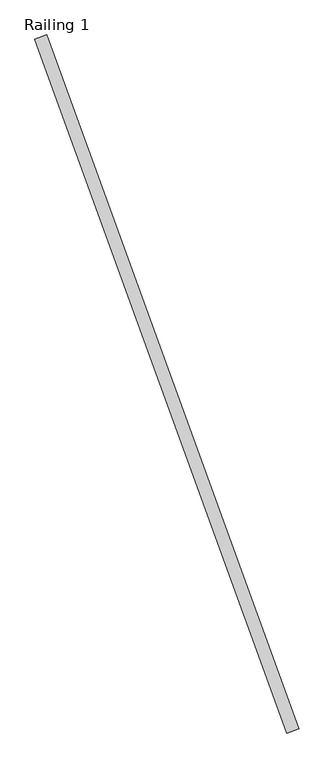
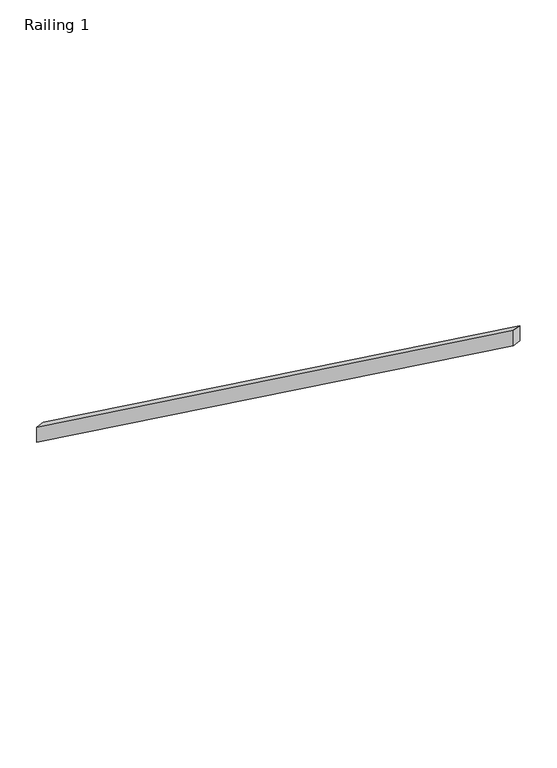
"""IFC4 building model written with IfcOpenShell, lengths in millimetres: railing geometry, Railing 1."""

from ifc_helpers import new_model, si_unit, frame, origin, place, context, project, spatial, polyline, outline, extrude, source, transform, mapped, element, save


def railing_1_b1c41cf1(model_context):
    return source(origin(), model_context, "Body", "SweptSolid", [
        extrude(outline(polyline([(48.768, -76.2), (0.0, 0.0), (3561.7972992, 0.0), (3610.5652992, -76.2), (48.768, -76.2)])), frame((25460.8824568, 10962.4159355, 5069.5303486), z_axis=(0.93969262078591, 0.34202014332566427, 0.0), x_axis=(0.2880737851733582, -0.7914762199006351, 0.5390536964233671)), (0.0, 0.0, 1.0), 50.8),
    ])


if __name__ == "__main__":
    model = new_model("IFC4")
    model_context = context("Model", 3, world=origin())
    ifc_project = project(units=[si_unit("LENGTHUNIT", "METRE", prefix="MILLI")], contexts=[model_context])
    site = spatial("IfcSite", under=ifc_project)
    building = spatial("IfcBuilding", under=site)
    placement = place(None, origin())
    railing_1_shape = railing_1_b1c41cf1(model_context)
    element("IfcRailing", 1, ObjectType="Railing 1", at=placement, inside=building, context=model_context, shape_type="MappedRepresentation", body=[
        mapped(railing_1_shape, transform((0.0, 0.0, 0.0), x_axis=(1.0, 0.0, 0.0), y_axis=(0.0, 1.0, 0.0), z_axis=(0.0, 0.0, 1.0))),
    ])
    save(model, "model.ifc")
